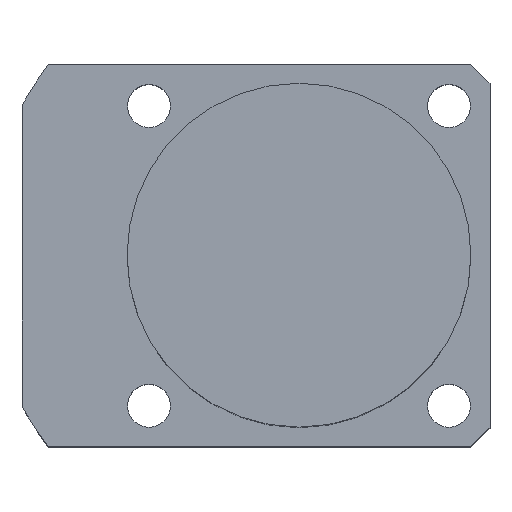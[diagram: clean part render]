
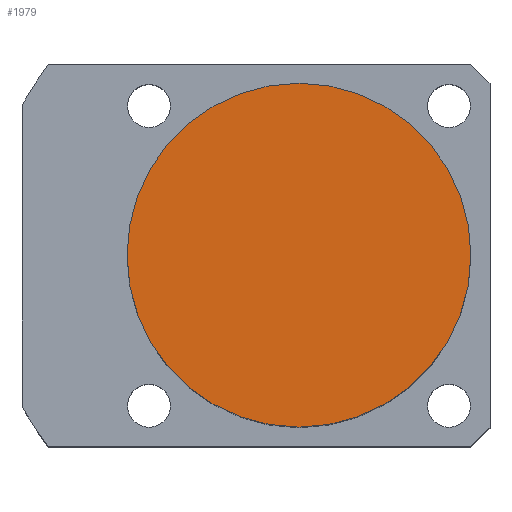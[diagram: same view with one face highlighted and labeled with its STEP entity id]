
A CAD part, top view. The second image highlights one B-rep face of the part: STEP entity #1979.
In plain terms, the highlighted planar face has unit normal (0, 0, 1).
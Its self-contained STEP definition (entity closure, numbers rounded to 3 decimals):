
#1923=CARTESIAN_POINT('',(0.0,-18.0,48.5));
#1924=VERTEX_POINT('',#1923);
#1931=CARTESIAN_POINT('',(-0.0,18.0,48.5));
#1932=VERTEX_POINT('',#1931);
#1933=CARTESIAN_POINT('',(0.0,0.0,48.5));
#1934=DIRECTION('',(0.0,0.0,1.0));
#1935=DIRECTION('',(1.0,0.0,0.0));
#1936=AXIS2_PLACEMENT_3D('',#1933,#1934,#1935);
#1937=CIRCLE('',#1936,18.0);
#1938=EDGE_CURVE('no 2139',#1932,#1924,#1937,.T.);
#1955=CARTESIAN_POINT('',(18.0,0.0,48.5));
#1956=VERTEX_POINT('',#1955);
#1957=CARTESIAN_POINT('',(0.0,0.0,48.5));
#1958=DIRECTION('',(0.0,0.0,1.0));
#1959=DIRECTION('',(1.0,0.0,0.0));
#1960=AXIS2_PLACEMENT_3D('',#1957,#1958,#1959);
#1961=CIRCLE('',#1960,18.0);
#1962=EDGE_CURVE('no 2154',#1956,#1932,#1961,.T.);
#1963=ORIENTED_EDGE('',*,*,#1962,.T.);
#1964=ORIENTED_EDGE('',*,*,#1938,.T.);
#1965=CARTESIAN_POINT('',(0.0,0.0,48.5));
#1966=DIRECTION('',(0.0,0.0,1.0));
#1967=DIRECTION('',(1.0,0.0,0.0));
#1968=AXIS2_PLACEMENT_3D('',#1965,#1966,#1967);
#1969=CIRCLE('',#1968,18.0);
#1970=EDGE_CURVE('no 2160',#1924,#1956,#1969,.T.);
#1971=ORIENTED_EDGE('',*,*,#1970,.T.);
#1972=EDGE_LOOP('',(#1963,#1964,#1971));
#1973=FACE_OUTER_BOUND('',#1972,.T.);
#1974=CARTESIAN_POINT('',(0.0,0.0,48.5));
#1975=DIRECTION('',(0.0,0.0,1.0));
#1976=DIRECTION('',(1.0,0.0,0.0));
#1977=AXIS2_PLACEMENT_3D('',#1974,#1975,#1976);
#1978=PLANE('',#1977);
#1979=ADVANCED_FACE('no 2147',(#1973),#1978,.T.);
